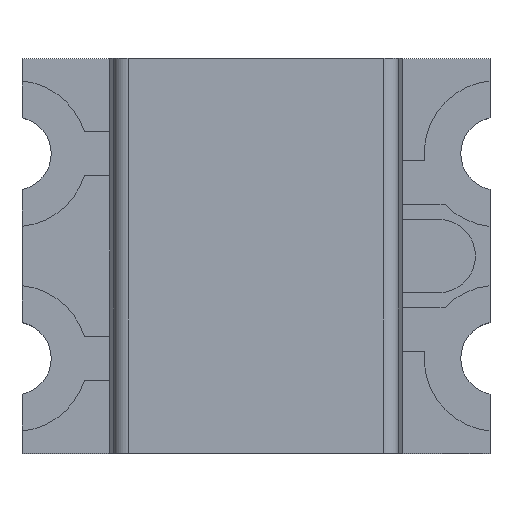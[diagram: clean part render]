
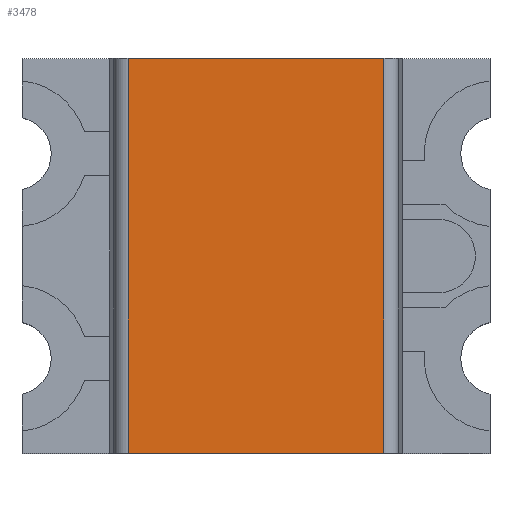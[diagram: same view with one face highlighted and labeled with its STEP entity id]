
A CAD part, top view. The second image highlights one B-rep face of the part: STEP entity #3478.
In plain terms, the highlighted planar face has unit normal (0, 0, 1).
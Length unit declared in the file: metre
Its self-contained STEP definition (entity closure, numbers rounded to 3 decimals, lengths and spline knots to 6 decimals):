
#255=ORIENTED_EDGE('',*,*,#1291,.F.);
#256=ORIENTED_EDGE('',*,*,#1290,.T.);
#257=ORIENTED_EDGE('',*,*,#1292,.T.);
#258=ORIENTED_EDGE('',*,*,#1293,.F.);
#1290=EDGE_CURVE('',#1806,#1807,#2153,.T.);
#1291=EDGE_CURVE('',#1806,#1808,#2154,.T.);
#1292=EDGE_CURVE('',#1807,#1809,#2155,.T.);
#1293=EDGE_CURVE('',#1808,#1809,#2156,.T.);
#1806=VERTEX_POINT('',#4878);
#1807=VERTEX_POINT('',#4880);
#1808=VERTEX_POINT('',#4884);
#1809=VERTEX_POINT('',#4886);
#2153=LINE('',#4881,#2550);
#2154=LINE('',#4883,#2551);
#2155=LINE('',#4885,#2552);
#2156=LINE('',#4887,#2553);
#2550=VECTOR('',#4008,1.);
#2551=VECTOR('',#4011,1.);
#2552=VECTOR('',#4012,1.);
#2553=VECTOR('',#4013,1.);
#2943=EDGE_LOOP('',(#255,#256,#257,#258));
#3144=FACE_BOUND('',#2943,.T.);
#3344=PLANE('',#3758);
#3478=ADVANCED_FACE('',(#3144),#3344,.F.);
#3758=AXIS2_PLACEMENT_3D('',#4882,#4009,#4010);
#4008=DIRECTION('',(0.,1.,0.));
#4009=DIRECTION('',(0.,0.,-1.));
#4010=DIRECTION('',(-1.,0.,0.));
#4011=DIRECTION('',(-1.,0.,0.));
#4012=DIRECTION('',(-1.,0.,0.));
#4013=DIRECTION('',(0.,1.,0.));
#4878=CARTESIAN_POINT('',(0.000874,-0.0027,0.001099));
#4880=CARTESIAN_POINT('',(0.000874,0.,0.001099));
#4881=CARTESIAN_POINT('',(0.000874,-0.002702,0.001099));
#4882=CARTESIAN_POINT('',(0.000437,-0.002702,0.001099));
#4883=CARTESIAN_POINT('',(0.000437,-0.0027,0.001099));
#4884=CARTESIAN_POINT('',(-0.000874,-0.0027,0.001099));
#4885=CARTESIAN_POINT('',(0.000437,0.,0.001099));
#4886=CARTESIAN_POINT('',(-0.000874,0.,0.001099));
#4887=CARTESIAN_POINT('',(-0.000874,-0.002702,0.001099));
